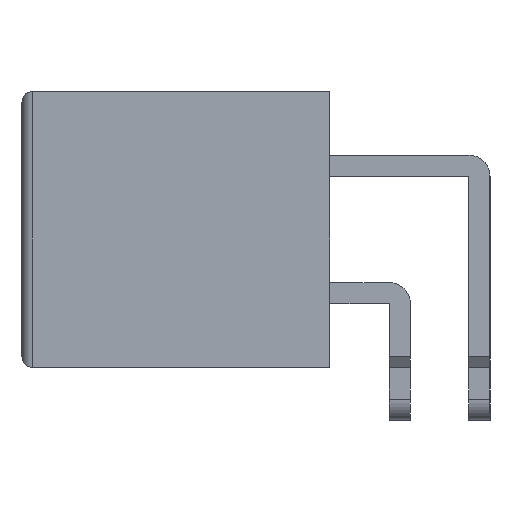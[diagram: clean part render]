
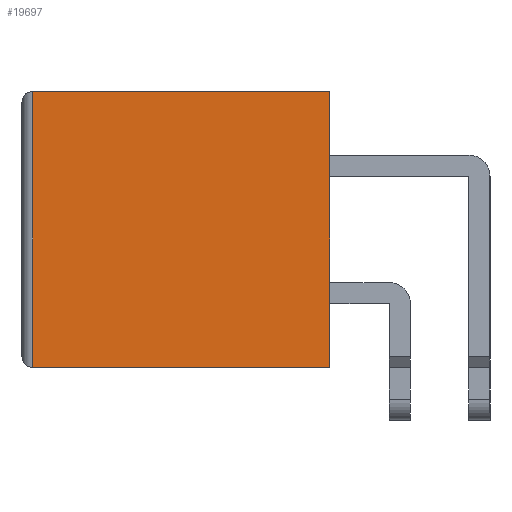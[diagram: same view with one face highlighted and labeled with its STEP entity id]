
A CAD part, left-side view. The second image highlights one B-rep face of the part: STEP entity #19697.
In plain terms, the highlighted planar face has unit normal (-1, 0, 0).
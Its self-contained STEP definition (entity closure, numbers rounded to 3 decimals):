
#3207=VERTEX_POINT('',#32079);
#3208=VERTEX_POINT('',#32083);
#3212=VERTEX_POINT('',#32095);
#3213=VERTEX_POINT('',#32101);
#5166=VECTOR('',#24752,1.);
#5170=VECTOR('',#24763,1.);
#5174=VECTOR('',#24768,1.);
#5175=VECTOR('',#24769,1.);
#7139=LINE('',#32082,#5166);
#7143=LINE('',#32094,#5170);
#7147=LINE('',#32100,#5174);
#7148=LINE('',#32102,#5175);
#10167=EDGE_CURVE('',#3208,#3207,#7139,.T.);
#10173=EDGE_CURVE('',#3212,#3207,#7143,.T.);
#10177=EDGE_CURVE('',#3208,#3213,#7147,.T.);
#10178=EDGE_CURVE('',#3213,#3212,#7148,.T.);
#16052=ORIENTED_EDGE('',*,*,#10167,.F.);
#16053=ORIENTED_EDGE('',*,*,#10177,.T.);
#16054=ORIENTED_EDGE('',*,*,#10178,.T.);
#16055=ORIENTED_EDGE('',*,*,#10173,.T.);
#17415=EDGE_LOOP('',(#16052,#16053,#16054,#16055));
#18591=FACE_BOUND('',#17415,.T.);
#19697=ADVANCED_FACE('',(#18591),#32742,.F.);
#20942=AXIS2_PLACEMENT_3D('',#32099,#24767,$);
#24752=DIRECTION('',(0.,0.,1.));
#24763=DIRECTION('',(0.,1.,0.));
#24767=DIRECTION('',(1.,0.,0.));
#24768=DIRECTION('',(0.,-1.,0.));
#24769=DIRECTION('',(0.,0.,1.));
#32079=CARTESIAN_POINT('',(0.,28.,0.));
#32082=CARTESIAN_POINT('',(0.,28.,-13.));
#32083=CARTESIAN_POINT('',(0.,28.,-26.));
#32094=CARTESIAN_POINT('',(0.,0.,0.));
#32095=CARTESIAN_POINT('',(0.,0.,0.));
#32099=CARTESIAN_POINT('',(0.,14.5,-13.));
#32100=CARTESIAN_POINT('',(0.,29.,-26.));
#32101=CARTESIAN_POINT('',(0.,0.,-26.));
#32102=CARTESIAN_POINT('',(0.,0.,-26.));
#32742=PLANE('',#20942);
